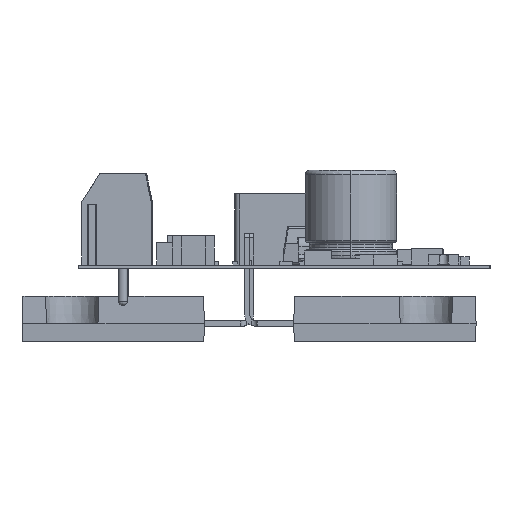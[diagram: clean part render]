
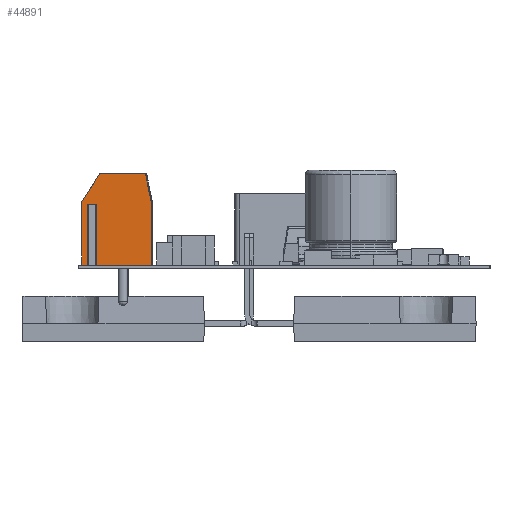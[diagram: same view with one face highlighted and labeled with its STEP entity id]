
A CAD part, left-side view. The second image highlights one B-rep face of the part: STEP entity #44891.
In plain terms, the highlighted planar face has unit normal (-1, 0, 0).
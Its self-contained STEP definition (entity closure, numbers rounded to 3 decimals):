
#44184 = VERTEX_POINT('',#44185);
#44185 = CARTESIAN_POINT('',(11.724,37.163,
    0.));
#44191 = EDGE_CURVE('',#44192,#44184,#44194,.T.);
#44192 = VERTEX_POINT('',#44193);
#44193 = CARTESIAN_POINT('',(11.724,43.363,
    0.));
#44194 = LINE('',#44195,#44196);
#44195 = CARTESIAN_POINT('',(11.724,43.363,
    0.));
#44196 = VECTOR('',#44197,1.);
#44197 = DIRECTION('',(0.,-1.,0.));
#44234 = VERTEX_POINT('',#44235);
#44235 = CARTESIAN_POINT('',(11.724,43.963,
    0.));
#44241 = EDGE_CURVE('',#44242,#44234,#44244,.T.);
#44242 = VERTEX_POINT('',#44243);
#44243 = CARTESIAN_POINT('',(11.724,44.763,
    0.));
#44244 = LINE('',#44245,#44246);
#44245 = CARTESIAN_POINT('',(11.724,44.763,
    0.));
#44246 = VECTOR('',#44247,1.);
#44247 = DIRECTION('',(0.,-1.,0.));
#44426 = EDGE_CURVE('',#44427,#44242,#44429,.T.);
#44427 = VERTEX_POINT('',#44428);
#44428 = CARTESIAN_POINT('',(11.724,44.763,7.));
#44429 = LINE('',#44430,#44431);
#44430 = CARTESIAN_POINT('',(11.724,44.763,7.));
#44431 = VECTOR('',#44432,1.);
#44432 = DIRECTION('',(0.,0.,-1.));
#44502 = EDGE_CURVE('',#44503,#44427,#44505,.T.);
#44503 = VERTEX_POINT('',#44504);
#44504 = CARTESIAN_POINT('',(11.724,42.763,10.));
#44505 = LINE('',#44506,#44507);
#44506 = CARTESIAN_POINT('',(11.724,42.763,10.));
#44507 = VECTOR('',#44508,1.);
#44508 = DIRECTION('',(0.,0.555,
    -0.832));
#44534 = EDGE_CURVE('',#44535,#44503,#44537,.T.);
#44535 = VERTEX_POINT('',#44536);
#44536 = CARTESIAN_POINT('',(11.724,37.763,10.));
#44537 = LINE('',#44538,#44539);
#44538 = CARTESIAN_POINT('',(11.724,37.763,10.));
#44539 = VECTOR('',#44540,1.);
#44540 = DIRECTION('',(0.,1.,0.));
#44614 = EDGE_CURVE('',#44615,#44535,#44617,.T.);
#44615 = VERTEX_POINT('',#44616);
#44616 = CARTESIAN_POINT('',(11.724,37.163,7.));
#44617 = LINE('',#44618,#44619);
#44618 = CARTESIAN_POINT('',(11.724,37.163,7.));
#44619 = VECTOR('',#44620,1.);
#44620 = DIRECTION('',(0.,0.196,
    0.981));
#44647 = EDGE_CURVE('',#44184,#44615,#44648,.T.);
#44648 = LINE('',#44649,#44650);
#44649 = CARTESIAN_POINT('',(11.724,37.163,
    0.));
#44650 = VECTOR('',#44651,1.);
#44651 = DIRECTION('',(0.,0.,1.));
#44891 = ADVANCED_FACE('',(#44892),#44923,.T.);
#44892 = FACE_BOUND('',#44893,.T.);
#44893 = EDGE_LOOP('',(#44894,#44902,#44903,#44904,#44905,#44906,#44907,
    #44908,#44909,#44917));
#44894 = ORIENTED_EDGE('',*,*,#44895,.F.);
#44895 = EDGE_CURVE('',#44192,#44896,#44898,.T.);
#44896 = VERTEX_POINT('',#44897);
#44897 = CARTESIAN_POINT('',(11.724,43.363,6.7));
#44898 = LINE('',#44899,#44900);
#44899 = CARTESIAN_POINT('',(11.724,43.363,0.));
#44900 = VECTOR('',#44901,1.);
#44901 = DIRECTION('',(0.,0.,1.));
#44902 = ORIENTED_EDGE('',*,*,#44191,.T.);
#44903 = ORIENTED_EDGE('',*,*,#44647,.T.);
#44904 = ORIENTED_EDGE('',*,*,#44614,.T.);
#44905 = ORIENTED_EDGE('',*,*,#44534,.T.);
#44906 = ORIENTED_EDGE('',*,*,#44502,.T.);
#44907 = ORIENTED_EDGE('',*,*,#44426,.T.);
#44908 = ORIENTED_EDGE('',*,*,#44241,.T.);
#44909 = ORIENTED_EDGE('',*,*,#44910,.F.);
#44910 = EDGE_CURVE('',#44911,#44234,#44913,.T.);
#44911 = VERTEX_POINT('',#44912);
#44912 = CARTESIAN_POINT('',(11.724,43.963,6.7));
#44913 = LINE('',#44914,#44915);
#44914 = CARTESIAN_POINT('',(11.724,43.963,6.7));
#44915 = VECTOR('',#44916,1.);
#44916 = DIRECTION('',(0.,0.,-1.));
#44917 = ORIENTED_EDGE('',*,*,#44918,.T.);
#44918 = EDGE_CURVE('',#44911,#44896,#44919,.T.);
#44919 = LINE('',#44920,#44921);
#44920 = CARTESIAN_POINT('',(11.724,43.963,6.7));
#44921 = VECTOR('',#44922,1.);
#44922 = DIRECTION('',(0.,-1.,0.));
#44923 = PLANE('',#44924);
#44924 = AXIS2_PLACEMENT_3D('',#44925,#44926,#44927);
#44925 = CARTESIAN_POINT('',(11.724,40.263,0.));
#44926 = DIRECTION('',(-1.,0.,0.));
#44927 = DIRECTION('',(0.,0.,-1.));
